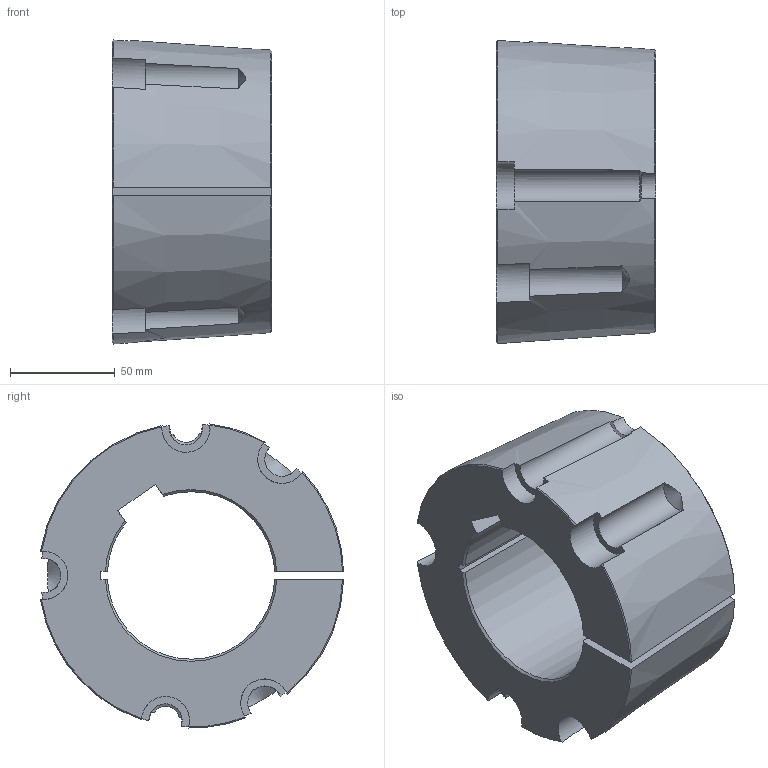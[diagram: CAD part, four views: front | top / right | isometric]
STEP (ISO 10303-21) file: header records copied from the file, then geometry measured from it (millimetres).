
FILE_DESCRIPTION(/* description */ (''),/* implementation_level */ '2;1');
FILE_NAME(/* name */ 'C:\Users\stagistaCAD\Desktop\29403080.stp',/* time_stamp */ '2018-06-28T16:00:57+02:00',/* author */ ('stagistacad'),/* organization */ (''),/* preprocessor_version */ 'ST-DEVELOPER v15.6',/* originating_system */ 'Autodesk Inventor 2015',/* authorisation */ '');
FILE_SCHEMA (('AUTOMOTIVE_DESIGN { 1 0 10303 214 3 1 1 }'));
Length unit declared in the file: millimetre
Products named in the file (1): 29403080
Bounding box: 76 x 144.85 x 145.22 mm (x, y, z)
Volume: 735389.2 mm3; surface area: 80791.2 mm2
Topology: 1 solids, 1 shells, 55 faces, 159 edges, 106 vertices
Faces by surface type: cone 23, cylinder 17, plane 15
Entity records: 2010 total; most frequent: CARTESIAN_POINT 586, ORIENTED_EDGE 318, DIRECTION 284, EDGE_CURVE 159, AXIS2_PLACEMENT_3D 124, VERTEX_POINT 106, CIRCLE 68, FACE_OUTER_BOUND 55
